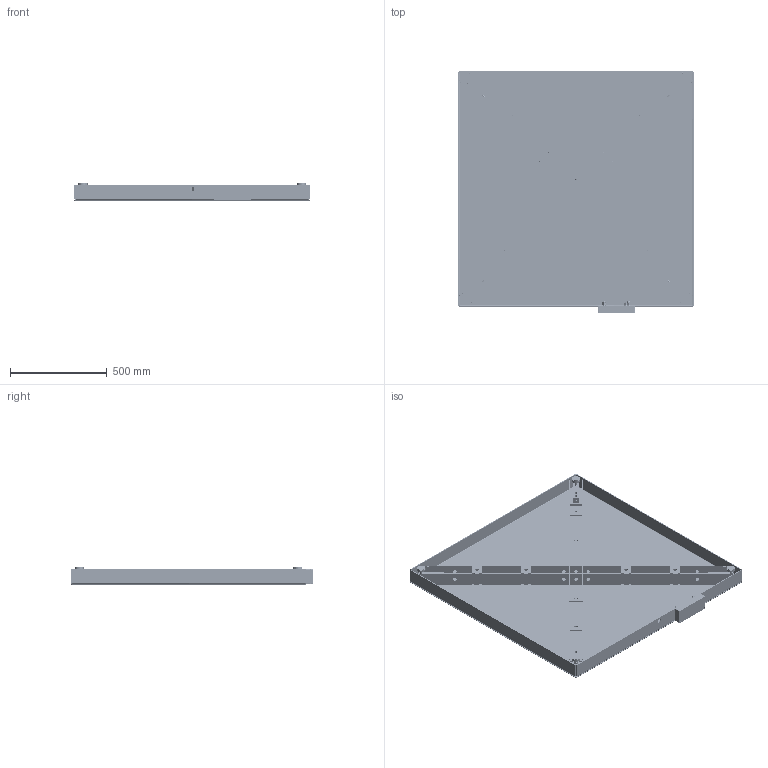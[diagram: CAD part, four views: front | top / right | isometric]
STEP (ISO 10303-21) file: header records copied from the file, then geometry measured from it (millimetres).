
FILE_DESCRIPTION (( 'STEP AP214' ), '1' );
FILE_NAME ('4040-48.STEP', '2022-07-19T20:02:25', ( '' ), ( '' ), 'SwSTEP 2.0', 'SolidWorks 2019', '' );
FILE_SCHEMA (( 'AUTOMOTIVE_DESIGN' ));
Length unit declared in the file: inch
Products named in the file (1): 4040-48
Bounding box: 1219.2 x 1252.73 x 95.25 mm (x, y, z)
Surface area: 8184198.8 mm2 (no closed solid volume)
Topology: 0 solids, 91 shells, 9313 faces, 24457 edges, 15581 vertices
Faces by surface type: plane 4635, bspline 2258, cylinder 1699, cone 717, sphere 4
Full cylindrical faces by diameter (mm): 3.175 x4, 3.797 x6, 4.978 x6, 5.105 x13, 6.096 x8, 6.731 x8, 6.756 x2, 7.938 x7, 8.89 x5, 8.992 x8, 9.271 x8, 10.716 x15, 10.77 x3, 11.049 x40, 11.11 x3, 11.509 x11, 12.268 x8, 12.667 x6, 13.335 x14, 15.85 x8, 19.05 x24, 19.304 x8, 19.812 x5, 22.86 x1, 37.973 x6, 38.481 x6, 44.45 x6
Entity records: 572354 total; most frequent: CARTESIAN_POINT 254763, ORIENTED_EDGE 46982, DIRECTION 30618, EDGE_CURVE 23555, VERTEX_POINT 15243, VECTOR 11652, LINE 11652, EDGE_LOOP 10226
